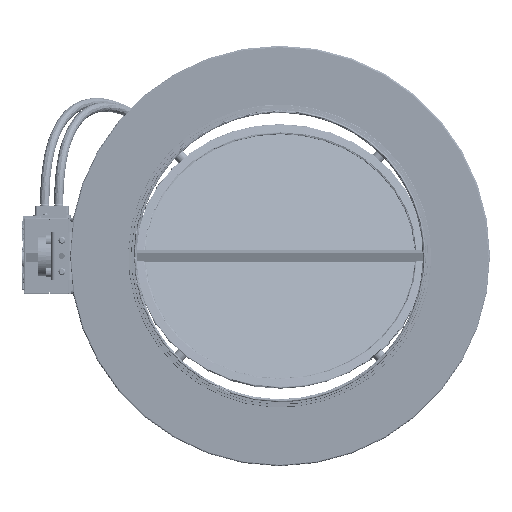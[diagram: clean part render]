
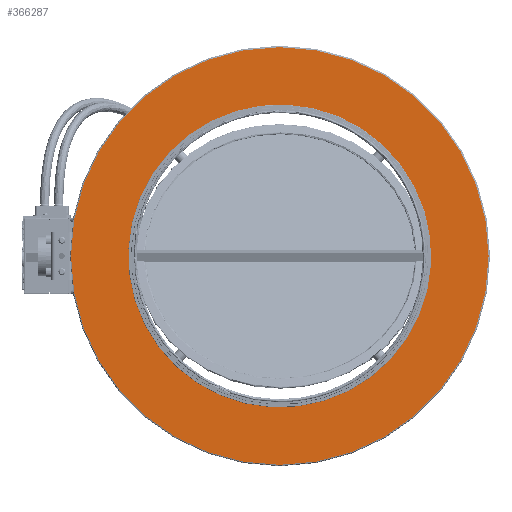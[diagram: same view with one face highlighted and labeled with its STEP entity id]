
A CAD part, left-side view. The second image highlights one B-rep face of the part: STEP entity #366287.
In plain terms, the highlighted planar face has unit normal (-1, 0, 0) as drawn and (0, -1, 0) by its records, which use the part's own axes.
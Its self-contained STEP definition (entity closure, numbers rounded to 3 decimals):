
#8157 = CARTESIAN_POINT ( 'NONE',  ( 0., 0., 0. ) ) ;
#34618 = ORIENTED_EDGE ( 'NONE', *, *, #213438, .F. ) ;
#36691 = FACE_BOUND ( 'NONE', #328343, .T. ) ;
#98300 = CARTESIAN_POINT ( 'NONE',  ( -50., 0., 0. ) ) ;
#124042 = DIRECTION ( 'NONE',  ( 0., -1., 0. ) ) ;
#128326 = CIRCLE ( 'NONE', #140256, 179. ) ;
#129066 = CARTESIAN_POINT ( 'NONE',  ( 129., 0., 0. ) ) ;
#140256 = AXIS2_PLACEMENT_3D ( 'NONE', #249814, #198407, #168025 ) ;
#152578 = PLANE ( 'NONE',  #285875 ) ;
#161366 = CARTESIAN_POINT ( 'NONE',  ( 75., 0., 0. ) ) ;
#168025 = DIRECTION ( 'NONE',  ( 1., 0., 0. ) ) ;
#173112 = AXIS2_PLACEMENT_3D ( 'NONE', #98300, #191146, #246340 ) ;
#191146 = DIRECTION ( 'NONE',  ( 0., -1., 0. ) ) ;
#198407 = DIRECTION ( 'NONE',  ( 0., -1., 0. ) ) ;
#203468 = CIRCLE ( 'NONE', #173112, 125. ) ;
#209485 = FACE_OUTER_BOUND ( 'NONE', #229195, .T. ) ;
#212612 = VERTEX_POINT ( 'NONE', #161366 ) ;
#213438 = EDGE_CURVE ( 'NONE', #212612, #212612, #203468, .T. ) ;
#227918 = EDGE_CURVE ( 'NONE', #273370, #273370, #128326, .T. ) ;
#229195 = EDGE_LOOP ( 'NONE', ( #259400 ) ) ;
#239845 = DIRECTION ( 'NONE',  ( 1., 0., 0. ) ) ;
#246340 = DIRECTION ( 'NONE',  ( 1., 0., 0. ) ) ;
#249814 = CARTESIAN_POINT ( 'NONE',  ( -50., 0., 0. ) ) ;
#259400 = ORIENTED_EDGE ( 'NONE', *, *, #227918, .T. ) ;
#273370 = VERTEX_POINT ( 'NONE', #129066 ) ;
#285875 = AXIS2_PLACEMENT_3D ( 'NONE', #8157, #124042, #239845 ) ;
#328343 = EDGE_LOOP ( 'NONE', ( #34618 ) ) ;
#366287 = ADVANCED_FACE ( 'NONE', ( #209485, #36691 ), #152578, .T. ) ;
